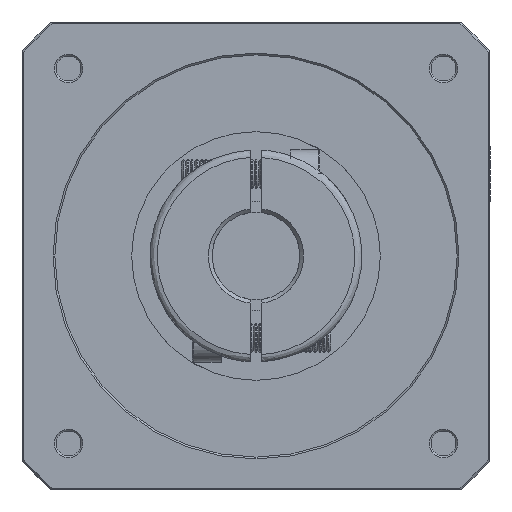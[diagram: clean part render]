
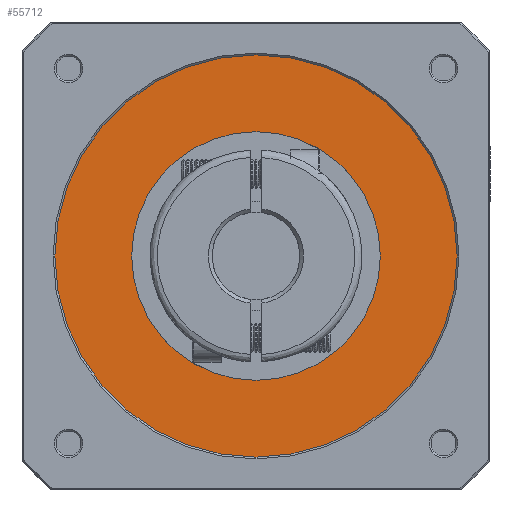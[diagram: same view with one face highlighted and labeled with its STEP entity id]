
A CAD part, front view. The second image highlights one B-rep face of the part: STEP entity #55712.
In plain terms, the highlighted planar face has unit normal (0, 1, 0).
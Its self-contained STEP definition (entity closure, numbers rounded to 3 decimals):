
#768 = DIRECTION ( 'NONE',  ( 0., 0., 1. ) ) ;
#1923 = FACE_OUTER_BOUND ( 'NONE', #61747, .T. ) ;
#11071 = CARTESIAN_POINT ( 'NONE',  ( 0., -171.611, 0. ) ) ;
#11292 = ORIENTED_EDGE ( 'NONE', *, *, #101069, .T. ) ;
#14785 = PLANE ( 'NONE',  #100945 ) ;
#18936 = DIRECTION ( 'NONE',  ( 0., 0., 1. ) ) ;
#21082 = ORIENTED_EDGE ( 'NONE', *, *, #32853, .T. ) ;
#21392 = EDGE_CURVE ( 'NONE', #49325, #30157, #48693, .T. ) ;
#25966 = DIRECTION ( 'NONE',  ( 0., 1., 0. ) ) ;
#30157 = VERTEX_POINT ( 'NONE', #98877 ) ;
#32591 = EDGE_CURVE ( 'NONE', #70829, #78626, #94600, .T. ) ;
#32853 = EDGE_CURVE ( 'NONE', #78626, #70829, #59247, .T. ) ;
#38315 = AXIS2_PLACEMENT_3D ( 'NONE', #11071, #65742, #18936 ) ;
#45992 = CARTESIAN_POINT ( 'NONE',  ( 0., -171.611, 0. ) ) ;
#46312 = CARTESIAN_POINT ( 'NONE',  ( -55.66, -171.611, -55.66 ) ) ;
#47720 = DIRECTION ( 'NONE',  ( 0., -1., 0. ) ) ;
#48693 = CIRCLE ( 'NONE', #90723, 55. ) ;
#49325 = VERTEX_POINT ( 'NONE', #69464 ) ;
#50820 = ORIENTED_EDGE ( 'NONE', *, *, #21392, .T. ) ;
#53873 = DIRECTION ( 'NONE',  ( 0., 0., -1. ) ) ;
#54200 = DIRECTION ( 'NONE',  ( 1., 0., 0. ) ) ;
#55712 = ADVANCED_FACE ( 'NONE', ( #59506, #1923 ), #14785, .F. ) ;
#59247 = CIRCLE ( 'NONE', #38315, 34. ) ;
#59506 = FACE_BOUND ( 'NONE', #95885, .T. ) ;
#61747 = EDGE_LOOP ( 'NONE', ( #50820, #11292 ) ) ;
#65742 = DIRECTION ( 'NONE',  ( 0., -1., 0. ) ) ;
#68393 = CARTESIAN_POINT ( 'NONE',  ( 0., -171.611, 34. ) ) ;
#69464 = CARTESIAN_POINT ( 'NONE',  ( 0., -171.611, -55. ) ) ;
#70829 = VERTEX_POINT ( 'NONE', #68393 ) ;
#71717 = AXIS2_PLACEMENT_3D ( 'NONE', #94398, #47720, #768 ) ;
#72758 = CARTESIAN_POINT ( 'NONE',  ( 0., -171.611, 0. ) ) ;
#75811 = AXIS2_PLACEMENT_3D ( 'NONE', #45992, #100558, #53873 ) ;
#78626 = VERTEX_POINT ( 'NONE', #99906 ) ;
#80599 = DIRECTION ( 'NONE',  ( 0., 0., -1. ) ) ;
#83411 = CIRCLE ( 'NONE', #75811, 55. ) ;
#83690 = ORIENTED_EDGE ( 'NONE', *, *, #32591, .T. ) ;
#90723 = AXIS2_PLACEMENT_3D ( 'NONE', #72758, #25966, #80599 ) ;
#94398 = CARTESIAN_POINT ( 'NONE',  ( 0., -171.611, 0. ) ) ;
#94600 = CIRCLE ( 'NONE', #71717, 34. ) ;
#95885 = EDGE_LOOP ( 'NONE', ( #83690, #21082 ) ) ;
#98877 = CARTESIAN_POINT ( 'NONE',  ( 0., -171.611, 55. ) ) ;
#99906 = CARTESIAN_POINT ( 'NONE',  ( 0., -171.611, -34. ) ) ;
#100558 = DIRECTION ( 'NONE',  ( 0., 1., 0. ) ) ;
#100867 = DIRECTION ( 'NONE',  ( 0., -1., 0. ) ) ;
#100945 = AXIS2_PLACEMENT_3D ( 'NONE', #46312, #100867, #54200 ) ;
#101069 = EDGE_CURVE ( 'NONE', #30157, #49325, #83411, .T. ) ;
